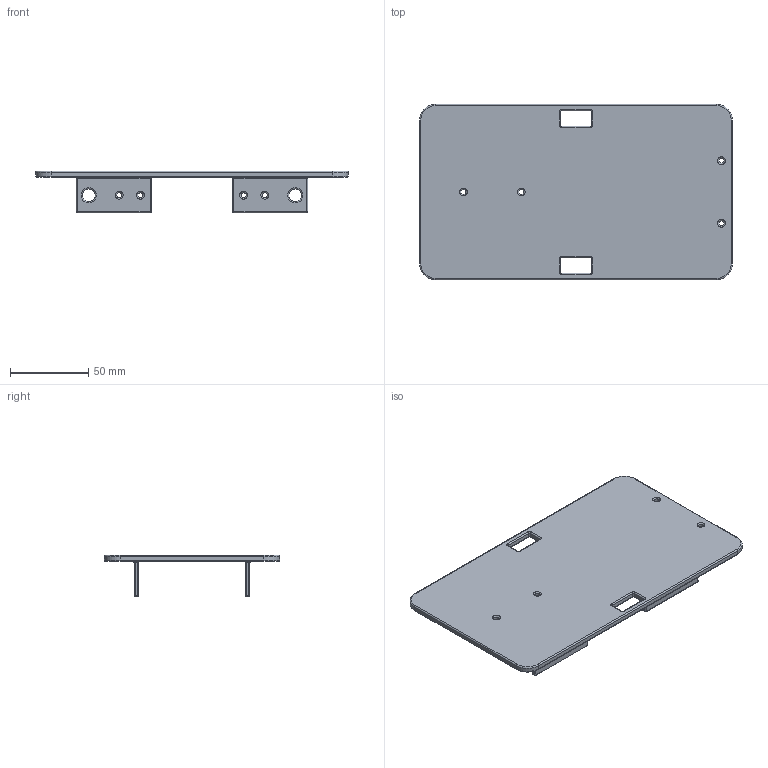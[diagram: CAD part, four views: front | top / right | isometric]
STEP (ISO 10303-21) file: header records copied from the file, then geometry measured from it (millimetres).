
FILE_DESCRIPTION(('Open CASCADE Model'),'2;1');
FILE_NAME('Open CASCADE Shape Model','2026-11-06T05:35:51',('Author'),( 'Open CASCADE'),'Open CASCADE STEP processor 8.0','Open CASCADE 8.0' ,'Unknown');
FILE_SCHEMA(('AUTOMOTIVE_DESIGN { 1 0 10303 214 1 1 1 1 }'));
Length unit declared in the file: millimetre
Products named in the file (1): Open CASCADE STEP translator 8.0 1
Bounding box: 200 x 112 x 26.7 mm (x, y, z)
Volume: 99442 mm3; surface area: 55042 mm2
Topology: 1 solids, 1 shells, 222 faces, 504 edges, 272 vertices
Faces by surface type: cylinder 100, torus 72, plane 34, sphere 16
Full cylindrical faces by diameter (mm): 3.35 x12, 8.15 x4
Entity records: 12296 total; most frequent: CARTESIAN_POINT 2451, DIRECTION 1892, ORIENTED_EDGE 976, PCURVE 976, DEFINITIONAL_REPRESENTATION 976, LINE 800, VECTOR 800, AXIS2_PLACEMENT_3D 527
